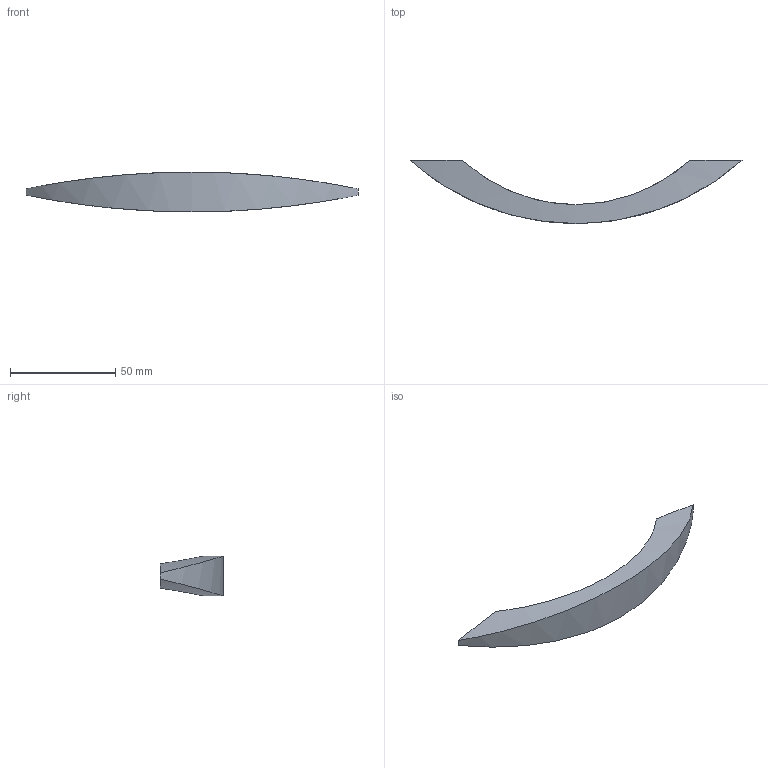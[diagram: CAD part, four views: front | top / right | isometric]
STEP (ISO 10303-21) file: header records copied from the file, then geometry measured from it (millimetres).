
FILE_DESCRIPTION( ( '' ), '1' );
FILE_NAME( 'D:/1.AUTOCAD EXPORT/Group 10/sheet_10_1/DONE/Sachin_1/115222.stp', '2013-10-29T09:53:35', ( '' ), ( '' ), ' ', ' ', ' ' );
FILE_SCHEMA( ( 'CONFIG_CONTROL_DESIGN' ) );
Length unit declared in the file: millimetre
Products named in the file (1): 1
Bounding box: 158 x 30 x 19 mm (x, y, z)
Volume: 23662.5 mm3; surface area: 8216.8 mm2
Topology: 1 solids, 1 shells, 12 faces, 28 edges, 20 vertices
Faces by surface type: cylinder 8, plane 4
Entity records: 520 total; most frequent: CARTESIAN_POINT 197, DIRECTION 58, ORIENTED_EDGE 56, EDGE_CURVE 28, AXIS2_PLACEMENT_3D 25, VERTEX_POINT 20, EDGE_LOOP 14, ADVANCED_FACE 12
